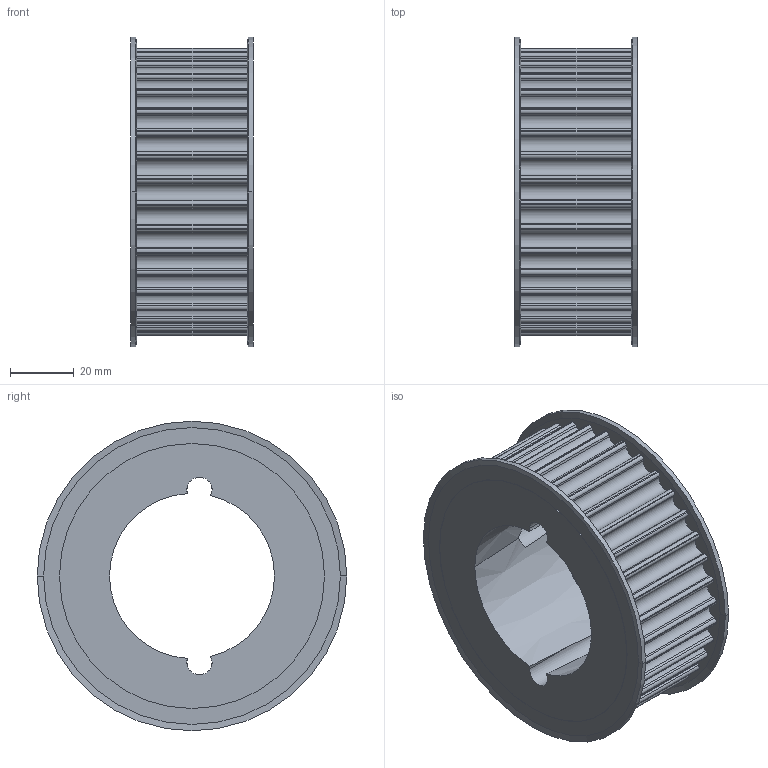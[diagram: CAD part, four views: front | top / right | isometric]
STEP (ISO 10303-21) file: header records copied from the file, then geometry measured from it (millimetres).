
FILE_DESCRIPTION( ( '' ), '1' );
FILE_NAME( 'C:/Users/Stangenbergd/Documents/CAD_Step/1/17477218.stp', '2021-10-19T10:18:16', ( '' ), ( '' ), ' ', ' ', ' ' );
FILE_SCHEMA( ( 'CONFIG_CONTROL_DESIGN' ) );
Length unit declared in the file: millimetre
Products named in the file (1): 1
Bounding box: 38.26 x 97 x 97 mm (x, y, z)
Volume: 134865 mm3; surface area: 35580.3 mm2
Topology: 1 solids, 1 shells, 252 faces, 728 edges, 482 vertices
Faces by surface type: cylinder 160, plane 78, cone 14
Entity records: 8588 total; most frequent: CARTESIAN_POINT 1603, DIRECTION 1554, ORIENTED_EDGE 1456, EDGE_CURVE 728, AXIS2_PLACEMENT_3D 585, VERTEX_POINT 482, LINE 384, VECTOR 384
